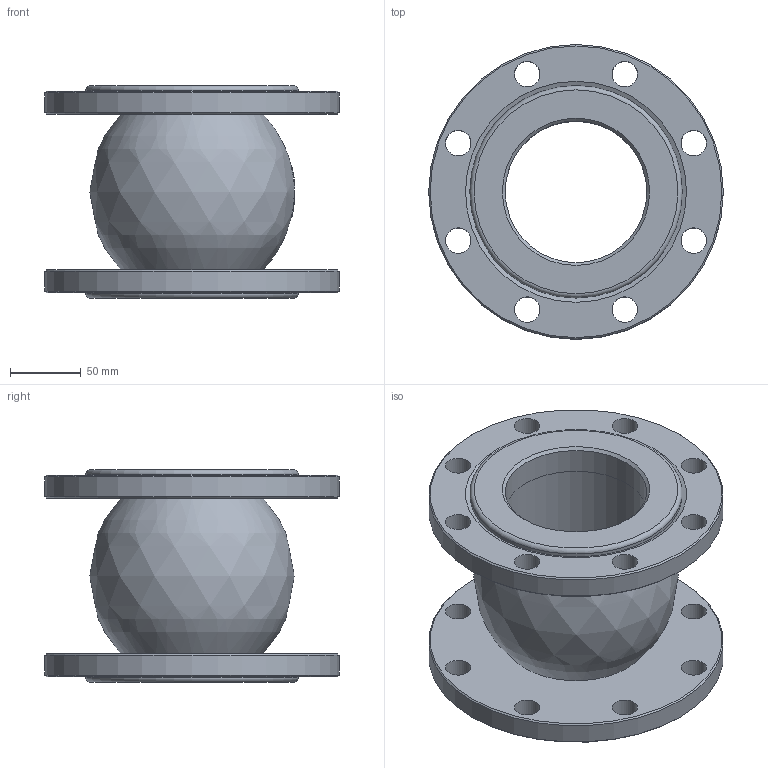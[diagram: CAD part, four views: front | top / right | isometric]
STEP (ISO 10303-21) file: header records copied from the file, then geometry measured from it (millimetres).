
FILE_DESCRIPTION(/* description */ ('D140-02165','CAx-IF Rec.Pracs.---Representation and Presentation of Product Manufacturing Information (PMI)---4.0---2014-10-13'),/* implementation_level */ '2;1');
FILE_NAME(/* name */ '',/* time_stamp */ '2026-04-30T11:00:00+03:00',/* author */ ('DN.RU'),/* organization */ ('DN.RU'),/* preprocessor_version */ 'ST-DEVELOPER v20',/* originating_system */ 'Autodesk Inventor 2025',/* authorisation */ '');
FILE_SCHEMA (('AP242_MANAGED_MODEL_BASED_3D_ENGINEERING_MIM_LF { 1 0 10303 442 1 1 4 }'));
Length unit declared in the file: millimetre
Products named in the file (1): CR-E25-F
Bounding box: 208 x 208 x 150 mm (x, y, z)
Volume: 1467025.2 mm3; surface area: 230381.8 mm2
Topology: 1 solids, 1 shells, 107 faces, 288 edges, 190 vertices
Faces by surface type: plane 43, bspline 34, cylinder 21, cone 7, torus 2
Full cylindrical faces by diameter (mm): 18 x16, 100 x1, 150 x2, 208 x2
Entity records: 4520 total; most frequent: CARTESIAN_POINT 1629, ORIENTED_EDGE 576, DIRECTION 534, EDGE_CURVE 288, AXIS2_PLACEMENT_3D 223, VERTEX_POINT 190, EDGE_LOOP 148, CIRCLE 136
